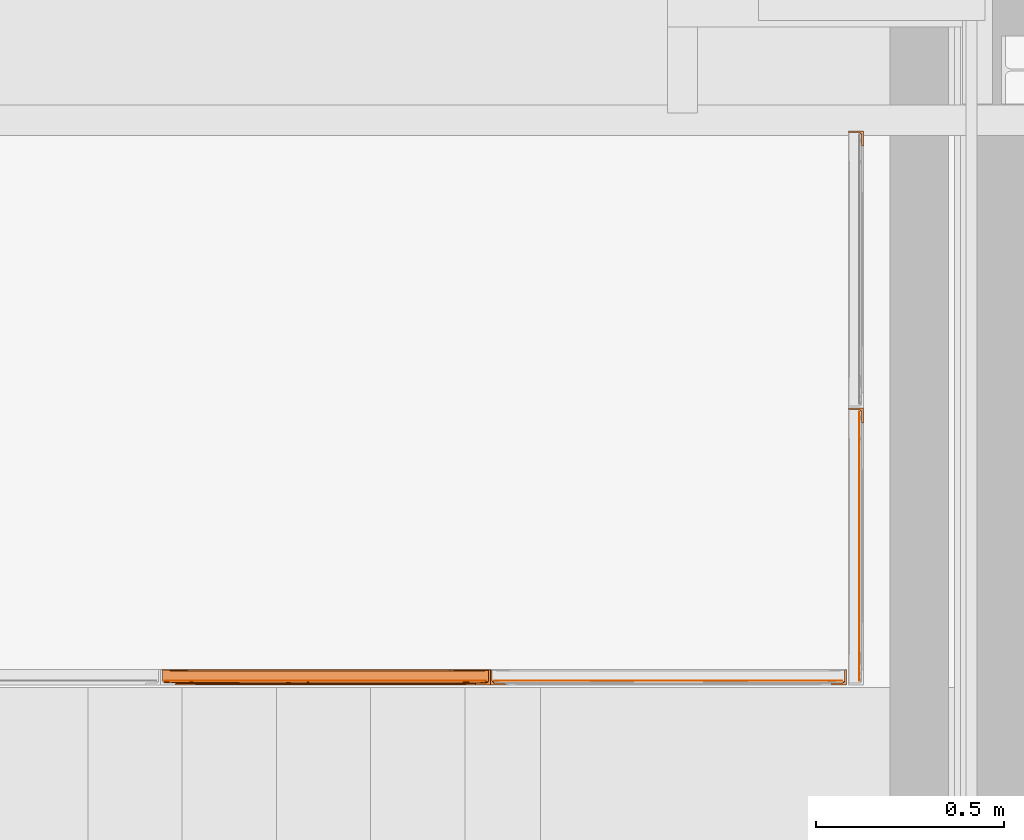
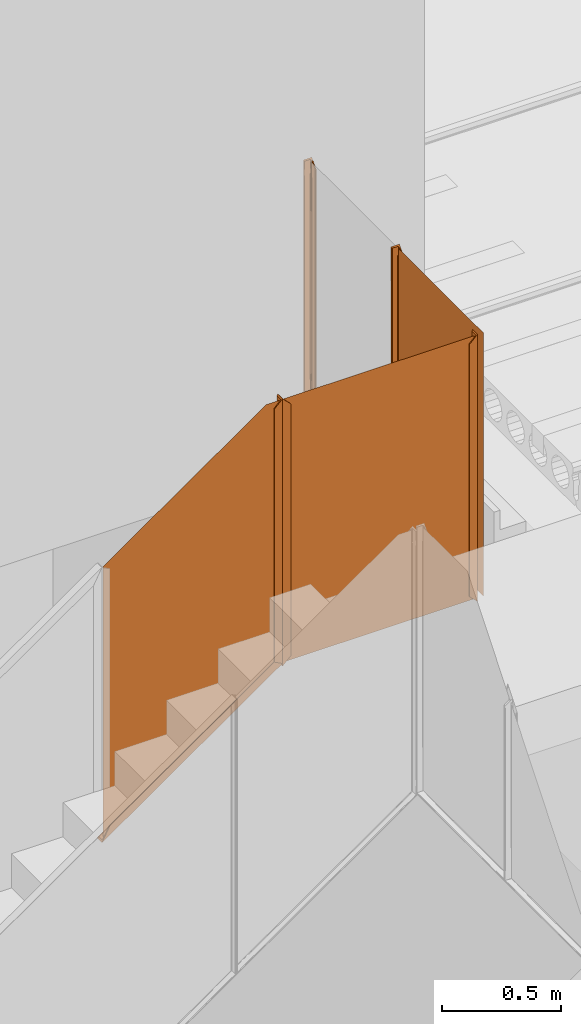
# One storey, part 226 of 230: 9 proxies.
"""IFC4X3_ADD2 building model written with IfcOpenShell, lengths in millimetres."""

from ifc_helpers import new_model, si_unit, direction, frame, origin_with_axes, place, context, subcontext, project, spatial, triangles, polygons, source, transform, mapped, material, type_object, type_shapes, element, save


model = new_model("IFC4X3_ADD2")

# Units and contexts
model_context = context("Model", 3, precision=1e-05, world=origin_with_axes(), true_north=direction((0.0, 1.0)))
body_context = subcontext(model_context, "Body", "Model", "MODEL_VIEW")
ifc_project = project(units=[si_unit("LENGTHUNIT", "METRE", prefix="MILLI"), si_unit("AREAUNIT", "SQUARE_METRE"), si_unit("VOLUMEUNIT", "CUBIC_METRE"), si_unit("PLANEANGLEUNIT", "RADIAN"), si_unit("TIMEUNIT", "SECOND"), si_unit("MASSUNIT", "GRAM")], contexts=[model_context])

# Site, building, storey
site_placement = place(None, origin_with_axes())
site = spatial("IfcSite", under=ifc_project, at=site_placement, Name="Site", CompositionType="ELEMENT")
building_placement = place(site_placement, origin_with_axes())
building = spatial("IfcBuilding", under=site, at=building_placement, Name="IFC Building Story")
storey_placement = place(building_placement, origin_with_axes())
storey = spatial("IfcBuildingStorey", under=building, at=storey_placement, Name="ETAGE 00 (0)", Elevation=0.0)

# Proxies
ifc_material = material(Name="<Unnamed>")
building_element_proxy_type_1 = type_object("IfcBuildingElementProxyType", Name="107", PredefinedType="NOTDEFINED")
shared_shape_1 = source(origin_with_axes(), body_context, "Body", "Tessellation", [
    polygons([(40.0, 1.99999984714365, 76.8392850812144), (238.834416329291, 1.99999983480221, 216.044519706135), (835.000000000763, 1.99999979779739, 633.42382195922), (835.00000000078, 0.0, 633.423821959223), (40.0, 0.0, 76.8392850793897), (835.2735811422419, 3.22247227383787, 633.281404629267), (836.144522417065, 4.31644054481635, 632.8280212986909), (837.594129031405, 4.96799257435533, 632.073403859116), (837.9999999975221, 5.000000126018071, 631.862120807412), (863.999999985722, 5.00000026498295, 618.32737750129), (865.476156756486, 5.20800222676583, 617.558938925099), (866.916329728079, 5.81847381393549, 616.809232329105), (868.0906761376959, 6.69047118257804, 616.1979062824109), (869.0198422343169, 7.78356872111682, 615.71421302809), (869.929010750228, 10.0931249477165, 615.240929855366), (870.0, 11.0000000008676, 615.203975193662), (870.0, 37.0000000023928, 615.203975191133), (870.275193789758, 38.22879501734, 615.060718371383), (871.1456099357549, 39.3198869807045, 614.607608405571), (872.5927963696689, 39.9680121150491, 613.8542508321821), (872.9999999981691, 39.9999277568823, 613.642274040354), (875.000000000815, 39.9998921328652, 612.601139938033), (875.000000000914, 0.0, 612.601139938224), (764.125000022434, 39.9999416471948, 537.41723533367), (219.749999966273, 39.9999863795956, 156.292041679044), (110.874999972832, 39.9999953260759, 80.0670029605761), (2.00000000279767, 40.0000042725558, 3.84196425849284), (0.0, 39.9999689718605, 0.0), (5.00000000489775, 37.000000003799, 9.60491063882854), (221.334416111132, 37.000000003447, 161.06377771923), (761.874999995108, 11.0000000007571, 539.504092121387), (653.7499999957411, 11.0000000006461, 463.804209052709), (437.499999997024, 11.0000000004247, 312.404442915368), (329.374999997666, 11.0000000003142, 236.704559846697), (221.249999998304, 11.0000000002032, 161.004676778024), (113.124999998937, 11.0000000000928, 85.30479370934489), (4.99999999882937, 10.9999999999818, 9.60491064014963), (330.44567219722, 5.00000001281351, 244.77894062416), (330.318635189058, 5.36637168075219, 242.274618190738), (436.916379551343, 7.91459996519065, 315.705416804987), (755.979045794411, 5.0004378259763, 542.7010059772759), (651.293550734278, 7.939310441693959, 465.766807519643), (543.983748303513, 7.89620670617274, 390.69067198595), (329.974374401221, 7.35423408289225, 240.293586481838), (758.9763225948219, 7.972879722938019, 541.067766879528), (8.11437111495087, 5.698387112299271, 15.5875618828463), (7.4096188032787, 6.20008116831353, 14.2337452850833), (115.182462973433, 6.1839257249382, 89.447995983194), (222.304733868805, 6.86417887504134, 165.017634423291), (223.685554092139, 5.303205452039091, 167.728228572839), (9.39132913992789, 5.389334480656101, 18.0405754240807), (224.418832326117, 4.99999996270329, 170.548148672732), (11.0000000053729, 4.99999986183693, 21.1308034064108), (114.072116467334, 8.74509924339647, 87.2215561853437), (220.642486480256, 8.73718577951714, 161.789852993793), (5.71101860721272, 7.93701571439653, 10.9707646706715), (5.1427823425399, 9.51502874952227, 9.87919296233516), (6.53852552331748, 6.82018884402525, 12.5603906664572), (737.8749999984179, 5.00000014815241, 561.763898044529), (237.24999999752, 4.999999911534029, 211.272784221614), (137.124999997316, 4.999999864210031, 141.174561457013), (36.9999999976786, 4.99999981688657, 71.0763386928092), (236.809564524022, 3.46866505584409, 212.853900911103), (38.7936802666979, 4.38601799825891, 74.5219664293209), (38.1842469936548, 4.76103466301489, 73.3512560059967), (138.410691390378, 3.44768992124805, 143.989830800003), (39.9058911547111, 2.84178969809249, 76.6585036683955), (39.1420296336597, 4.17166012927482, 75.1911393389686), (39.5700699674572, 3.65410905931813, 76.01339716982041), (0.0, 0.0, 0.0), (219.307783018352, 38.4676351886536, 157.871622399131), (3.79476959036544, 39.38960526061, 7.28968455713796), (3.18803850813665, 39.7621532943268, 6.12416499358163), (112.160263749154, 38.4464864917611, 82.88191361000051), (4.90527484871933, 37.8473879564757, 9.42294531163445), (4.14172131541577, 39.176568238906, 7.95617262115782), (4.56895889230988, 38.6605383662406, 8.776888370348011)], [[[2, 3, 4]], [[4, 5, 2]], [[5, 1, 2]], [[21, 22, 23]], [[23, 16, 17]], [[23, 17, 18]], [[23, 18, 19]], [[23, 19, 20]], [[23, 20, 21]], [[23, 15, 16]], [[23, 14, 15]], [[23, 13, 14]], [[23, 12, 13]], [[23, 11, 12]], [[23, 10, 11]], [[23, 4, 9]], [[23, 9, 10]], [[4, 3, 6]], [[4, 6, 7]], [[4, 7, 8]], [[4, 8, 9]], [[26, 27, 28]], [[28, 25, 26]], [[28, 24, 25]], [[28, 22, 24]], [[22, 21, 24]], [[34, 35, 30]], [[30, 33, 34]], [[30, 32, 33]], [[30, 17, 32]], [[17, 31, 32]], [[17, 16, 31]], [[36, 37, 29]], [[29, 30, 35]], [[29, 35, 36]], [[38, 39, 40]], [[40, 38, 41]], [[43, 40, 41]], [[41, 42, 43]], [[39, 44, 40]], [[44, 34, 33]], [[10, 41, 45]], [[45, 11, 10]], [[45, 12, 11]], [[15, 14, 31]], [[13, 45, 31]], [[31, 14, 13]], [[46, 47, 48]], [[48, 49, 50]], [[50, 51, 48]], [[50, 49, 44]], [[52, 50, 39]], [[53, 51, 50]], [[54, 36, 35]], [[49, 35, 34]], [[49, 55, 35]], [[55, 49, 48]], [[36, 54, 56]], [[57, 37, 36]], [[47, 58, 54]], [[58, 56, 54]], [[45, 42, 32]], [[43, 40, 33]], [[33, 32, 43]], [[32, 42, 43]], [[42, 45, 41]], [[32, 31, 45]], [[54, 48, 47]], [[56, 57, 36]], [[48, 54, 55]], [[34, 44, 49]], [[35, 55, 54]], [[50, 52, 53]], [[39, 38, 52]], [[44, 39, 50]], [[48, 51, 46]], [[31, 16, 15]], [[45, 13, 12]], [[33, 40, 44]], [[41, 10, 9]], [[41, 9, 59]], [[59, 60, 38]], [[59, 38, 41]], [[60, 52, 38]], [[61, 62, 53]], [[61, 53, 52]], [[52, 60, 61]], [[8, 7, 59]], [[7, 6, 59]], [[59, 9, 8]], [[59, 6, 3]], [[3, 2, 60, 59]], [[2, 63, 60]], [[64, 65, 61]], [[65, 62, 61]], [[66, 63, 2, 1]], [[1, 67, 66]], [[68, 64, 66]], [[66, 69, 68]], [[66, 67, 69]], [[61, 66, 64]], [[61, 60, 63, 66]], [[70, 5, 4, 23]], [[28, 70, 23, 22]], [[20, 19, 24]], [[19, 18, 24]], [[24, 21, 20]], [[24, 18, 17]], [[17, 30, 25, 24]], [[30, 71, 25]], [[72, 73, 26]], [[73, 27, 26]], [[74, 71, 30, 29]], [[29, 75, 74]], [[76, 72, 74]], [[74, 77, 76]], [[74, 75, 77]], [[26, 74, 72]], [[26, 25, 71, 74]], [[64, 68, 69]], [[64, 69, 67]], [[64, 67, 1]], [[64, 1, 5]], [[64, 5, 62]], [[62, 65, 64]], [[5, 70, 53]], [[5, 53, 62]], [[70, 51, 53]], [[70, 46, 51]], [[70, 47, 46]], [[70, 58, 47]], [[70, 56, 58]], [[70, 57, 56]], [[70, 37, 57]], [[70, 27, 72]], [[70, 72, 76]], [[70, 76, 77]], [[70, 77, 75]], [[70, 75, 29]], [[70, 29, 37]], [[27, 73, 72]], [[70, 28, 27]]]),
])
type_shapes(building_element_proxy_type_1, [shared_shape_1])
proxy_1_placement = place(storey_placement, frame((37614.1894781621, 2977.49996376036, 3391.54898137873), z_axis=(0.0, 0.0, 1.0), x_axis=(1.0, 0.0, 0.0)))
element("IfcBuildingElementProxy", 1, at=proxy_1_placement, inside=storey, type_object=building_element_proxy_type_1, material=ifc_material, Name="54", ObjectType="54", context=body_context, shape_type="MappedRepresentation", body=[
    mapped(shared_shape_1, transform((0.0, 0.0, 0.0))),
])
building_element_proxy_type_2 = type_object("IfcBuildingElementProxyType", Name="123", PredefinedType="NOTDEFINED")
shared_shape_2 = source(origin_with_axes(), body_context, "Body", "Tessellation", [
    triangles([(39479.190234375, 4407.50015716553, 4029.99994354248), (39477.1903564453, 4407.50015716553, 4029.99994354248), (39477.1903564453, 4407.50015716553, 5320.000273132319), (39479.190234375, 4407.50015716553, 5320.000273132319), (39474.1905395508, 4410.49997406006, 5323.000090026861), (39476.1299560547, 4407.680960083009, 5320.18107604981), (39475.1114135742, 4408.33615264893, 5320.83568725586), (39474.1905395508, 4436.50013122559, 5349.00024719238), (39479.190234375, 4447.500041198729, 5360.00015716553), (39473.8742797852, 4438.32850799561, 5350.828623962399), (39473.0185180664, 4440.03247375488, 5352.532008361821), (39471.0139892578, 4441.82480621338, 5354.32492218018), (39468.1909057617, 4442.50005569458, 5354.99988098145), (39439.1880249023, 4447.500041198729, 5360.00015716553), (39442.1878417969, 4442.50005569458, 5354.99988098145), (39441.1274414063, 4442.68114929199, 5355.18068389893), (39440.1088989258, 4443.33605117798, 5355.83587646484), (39439.1880249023, 4445.50016326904, 5358.00027923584), (39439.1880249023, 4447.500041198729, 3990.00005950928), (39479.190234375, 4447.500041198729, 3990.00005950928), (39442.1878417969, 4442.50005569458, 3995.00004501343), (39468.1909057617, 4442.50005569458, 4334.99993133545), (39468.1909057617, 4442.50005569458, 3995.00004501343), (39468.1909057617, 4442.50005569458, 4675.0001083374), (39468.1909057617, 4442.50005569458, 5015.00028533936), (39471.204675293, 4439.5208770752, 5012.9492477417), (39470.9628295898, 4441.86114120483, 3995.63895950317), (39468.4606567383, 4442.49482345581, 3995.0052772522), (39472.6185424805, 4440.56238327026, 3996.93771743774), (39471.19072265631, 4439.51506347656, 4337.04864349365), (39474.1905395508, 4436.50013122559, 4000.99996948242), (39473.8510253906, 4438.42152557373, 3999.07857513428), (39471.2930419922, 4439.4115814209, 4674.99981765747), (39474.1905395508, 4436.49984054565, 5010.87495574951), (39474.1905395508, 4410.49997406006, 4189.00012207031), (39474.1905395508, 4410.49997406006, 4027.00012664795), (39474.1905395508, 4410.49997406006, 5161.000094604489), (39475.9067138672, 4407.76845474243, 4029.73164596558), (39475.0369995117, 4408.40010223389, 4029.09999847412), (39439.1880249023, 4445.50016326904, 5187.25023651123), (39439.1880249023, 4445.50016326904, 4162.74998016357), (39440.9088500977, 4442.76864395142, 3994.73145675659), (39440.0391357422, 4443.400291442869, 3994.09980926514), (39439.1880249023, 4445.50016326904, 3991.99993743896)], [[1, 2, 3], [3, 4, 1], [5, 4, 3], [6, 7, 3], [5, 3, 7], [4, 8, 9], [8, 4, 5], [8, 10, 9], [9, 10, 11], [11, 12, 9], [13, 14, 9], [12, 13, 9], [15, 16, 17], [18, 14, 15], [18, 15, 17], [15, 14, 13], [14, 19, 9], [20, 9, 19], [21, 22, 23], [22, 21, 24], [24, 15, 25], [15, 24, 21], [13, 25, 15], [13, 26, 25], [12, 11, 26], [26, 13, 12], [22, 27, 28], [22, 28, 23], [22, 29, 27], [30, 31, 32], [31, 30, 33], [33, 34, 31], [30, 32, 29], [11, 10, 26], [8, 34, 26], [26, 10, 8], [26, 33, 24], [33, 26, 34], [24, 25, 26], [29, 22, 30], [30, 22, 24], [24, 33, 30], [31, 35, 36], [35, 31, 34], [34, 8, 37], [5, 37, 8], [34, 37, 35], [7, 6, 37], [37, 5, 7], [37, 6, 3], [37, 3, 35], [2, 35, 3], [35, 2, 38], [35, 39, 36], [35, 38, 39], [20, 1, 4], [4, 9, 20], [17, 16, 40], [40, 18, 17], [40, 16, 15], [40, 15, 41], [21, 41, 15], [41, 21, 42], [41, 43, 44], [41, 42, 43], [14, 18, 40], [14, 40, 41], [41, 44, 19], [41, 19, 14], [1, 31, 36], [31, 1, 20], [32, 31, 20], [29, 32, 20], [2, 1, 36], [2, 39, 38], [39, 2, 36], [44, 43, 21], [19, 44, 21], [42, 21, 43], [27, 29, 20], [28, 20, 23], [21, 23, 19], [27, 20, 28], [23, 20, 19]]),
])
type_shapes(building_element_proxy_type_2, [shared_shape_2])
proxy_2_placement = place(storey_placement, origin_with_axes())
element("IfcBuildingElementProxy", 2, at=proxy_2_placement, inside=storey, type_object=building_element_proxy_type_2, material=ifc_material, Name="64", ObjectType="64", context=body_context, shape_type="MappedRepresentation", body=[
    mapped(shared_shape_2, transform((0.0, 0.0, 0.0))),
])
building_element_proxy_type_3 = type_object("IfcBuildingElementProxyType", Name="125", PredefinedType="NOTDEFINED")
shared_shape_3 = source(origin_with_axes(), body_context, "Body", "Tessellation", [
    triangles([(39479.190234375, 3672.49996261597, 4029.99994354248), (39477.1903564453, 3672.49996261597, 4029.99994354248), (39477.1903564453, 3672.49996261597, 5320.000273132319), (39479.190234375, 3672.49996261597, 5320.000273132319), (39474.1905395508, 3675.50007019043, 5323.000090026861), (39476.1299560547, 3672.68105621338, 5320.18107604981), (39475.1114135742, 3673.33595809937, 5320.83568725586), (39474.1905395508, 3701.49993667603, 5349.00024719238), (39479.190234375, 3712.5001373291, 5360.00015716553), (39473.8742797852, 3703.32831344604, 5350.828623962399), (39473.0185180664, 3705.03227920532, 5352.532008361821), (39471.0139892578, 3706.82461166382, 5354.32492218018), (39468.1909057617, 3707.49986114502, 5354.99988098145), (39439.1880249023, 3712.5001373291, 5360.00015716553), (39442.1878417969, 3707.49986114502, 5354.99988098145), (39441.1274414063, 3707.68095474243, 5355.18068389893), (39440.1088989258, 3708.33585662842, 5355.83587646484), (39439.1880249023, 3710.49996871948, 5358.00027923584), (39439.1880249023, 3712.5001373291, 3990.00005950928), (39479.190234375, 3712.5001373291, 3990.00005950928), (39442.1878417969, 3707.49986114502, 3995.00004501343), (39468.1909057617, 3707.49986114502, 4334.99993133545), (39468.1909057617, 3707.49986114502, 3995.00004501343), (39468.1909057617, 3707.49986114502, 4675.0001083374), (39468.1909057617, 3707.49986114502, 5015.00028533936), (39471.204675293, 3704.52068252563, 5012.9492477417), (39470.9628295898, 3706.86123733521, 3995.63895950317), (39468.4606567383, 3707.49491958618, 3995.0052772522), (39472.6185424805, 3705.56247940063, 3996.93771743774), (39471.19072265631, 3704.51515960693, 4337.04864349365), (39474.1905395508, 3701.49993667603, 4000.99996948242), (39473.8510253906, 3703.4216217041, 3999.07857513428), (39471.2930419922, 3704.41167755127, 4674.99981765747), (39474.1905395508, 3701.49964599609, 5010.87495574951), (39474.1905395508, 3675.50007019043, 4189.00012207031), (39474.1905395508, 3675.50007019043, 4027.00012664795), (39474.1905395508, 3675.50007019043, 5161.000094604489), (39475.9067138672, 3672.7685508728, 4029.73164596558), (39475.0369995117, 3673.40019836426, 4029.09999847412), (39439.1880249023, 3710.49996871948, 5187.25023651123), (39439.1880249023, 3710.49996871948, 4162.74998016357), (39440.9088500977, 3707.76844940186, 3994.73145675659), (39440.0391357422, 3708.40009689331, 3994.09980926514), (39439.1880249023, 3710.49996871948, 3991.99993743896)], [[1, 2, 3], [3, 4, 1], [5, 4, 3], [6, 7, 3], [5, 3, 7], [4, 8, 9], [8, 4, 5], [8, 10, 9], [9, 10, 11], [11, 12, 9], [13, 14, 9], [12, 13, 9], [15, 16, 17], [18, 14, 15], [18, 15, 17], [15, 14, 13], [14, 19, 9], [20, 9, 19], [21, 22, 23], [22, 21, 24], [24, 15, 25], [15, 24, 21], [13, 25, 15], [13, 26, 25], [12, 11, 26], [26, 13, 12], [22, 27, 28], [22, 28, 23], [22, 29, 27], [30, 31, 32], [31, 30, 33], [33, 34, 31], [30, 32, 29], [11, 10, 26], [8, 34, 26], [26, 10, 8], [26, 33, 24], [33, 26, 34], [24, 25, 26], [29, 22, 30], [30, 22, 24], [24, 33, 30], [31, 35, 36], [35, 31, 34], [34, 8, 37], [5, 37, 8], [34, 37, 35], [7, 6, 37], [37, 5, 7], [37, 6, 3], [37, 3, 35], [2, 35, 3], [35, 2, 38], [35, 39, 36], [35, 38, 39], [20, 1, 4], [4, 9, 20], [17, 16, 40], [40, 18, 17], [40, 16, 15], [40, 15, 41], [21, 41, 15], [41, 21, 42], [41, 43, 44], [41, 42, 43], [14, 18, 40], [14, 40, 41], [41, 44, 19], [41, 19, 14], [1, 31, 36], [31, 1, 20], [32, 31, 20], [29, 32, 20], [2, 1, 36], [2, 39, 38], [39, 2, 36], [44, 43, 21], [19, 44, 21], [42, 21, 43], [27, 29, 20], [28, 20, 23], [21, 23, 19], [27, 20, 28], [23, 20, 19]]),
])
type_shapes(building_element_proxy_type_3, [shared_shape_3])
proxy_3_placement = place(storey_placement, origin_with_axes())
element("IfcBuildingElementProxy", 3, at=proxy_3_placement, inside=storey, type_object=building_element_proxy_type_3, material=ifc_material, Name="66", ObjectType="66", context=body_context, shape_type="MappedRepresentation", body=[
    mapped(shared_shape_3, transform((0.0, 0.0, 0.0))),
])
building_element_proxy_type_4 = type_object("IfcBuildingElementProxyType", Name="127", PredefinedType="NOTDEFINED")
shared_shape_4 = source(origin_with_axes(), body_context, "Body", "Tessellation", [
    polygons([(0.0, 712.999999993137, 0.0), (0.0, 0.0, 0.0), (0.0, 0.0, 1347.99999999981), (0.0, 712.999999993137, 1347.9999999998)], [[[1, 2, 3, 4]]]),
])
type_shapes(building_element_proxy_type_4, [shared_shape_4])
proxy_4_placement = place(storey_placement, frame((39468.1894781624, 2988.49996377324, 4001.00000000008), z_axis=(0.0, 0.0, 1.0), x_axis=(1.0, 0.0, 0.0)))
element("IfcBuildingElementProxy", 4, at=proxy_4_placement, inside=storey, type_object=building_element_proxy_type_4, material=ifc_material, Name="67", ObjectType="67", context=body_context, shape_type="MappedRepresentation", body=[
    mapped(shared_shape_4, transform((0.0, 0.0, 0.0))),
])
building_element_proxy_type_5 = type_object("IfcBuildingElementProxyType", Name="133", PredefinedType="NOTDEFINED")
shared_shape_5 = source(origin_with_axes(), body_context, "Body", "Tessellation", [
    triangles([(38529.1900817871, 2977.49994277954, 5320.000273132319), (38529.1900817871, 2979.50011138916, 5320.000273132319), (38529.1900817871, 2977.49994277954, 4029.99994354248), (38529.1900817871, 2979.50011138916, 4029.99994354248), (38500.1895263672, 2982.49992828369, 5349.00024719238), (38526.1902648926, 2982.49992828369, 5323.000090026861), (38489.1901977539, 2977.49994277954, 5360.00015716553), (38498.361730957, 2982.81473464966, 5350.828623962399), (38496.6571838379, 2983.67311248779, 5352.532008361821), (38528.352923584, 2981.58021697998, 5320.83568725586), (38529.00869750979, 2980.56167449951, 5320.18107604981), (38491.1900756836, 3017.50011749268, 5358.00027923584), (38493.352734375, 3016.58011550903, 5355.83587646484), (38494.1898925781, 3014.50000991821, 5354.99988098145), (38489.1901977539, 3017.50040817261, 5360.00015716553), (38494.0085083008, 3015.56157302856, 5355.18068389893), (38494.8642700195, 2985.67618789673, 5354.32492218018), (38494.1898925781, 2988.36846542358, 5354.998718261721), (38489.1901977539, 3017.49982681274, 3990.00005950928), (38489.1901977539, 2977.49994277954, 3990.00005950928), (38494.1898925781, 2988.49985275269, 5015.00028533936), (38494.1898925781, 2988.49985275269, 4675.0001083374), (38494.1898925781, 3014.50000991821, 3995.00004501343), (38494.1898925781, 2988.49985275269, 4334.99993133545), (38494.1898925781, 2988.49985275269, 3995.00004501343), (38494.8293884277, 2985.72473144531, 3995.63925018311), (38496.1269836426, 2984.06959991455, 3996.93829879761), (38494.194543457, 2988.2289390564, 3995.0052772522), (38497.1664550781, 2985.48811798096, 4337.04864349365), (38497.1780822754, 2985.49451293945, 5012.9492477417), (38497.2780761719, 2985.39510040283, 4675.0001083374), (38500.1895263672, 2982.49992828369, 4339.12497024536), (38500.1895263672, 2982.49992828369, 4000.99996948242), (38498.2687133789, 2982.83827972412, 3999.07857513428), (38526.1902648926, 2982.49992828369, 5161.000094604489), (38526.1902648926, 2982.49992828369, 4189.00012207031), (38526.1902648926, 2982.49992828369, 4027.00012664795), (38528.2901367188, 2981.65259628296, 4029.09999847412), (38528.9203308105, 2980.78288192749, 4029.73164596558), (38493.2899475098, 3016.65249481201, 3994.09980926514), (38493.9201416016, 3015.78278045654, 3994.73145675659), (38491.1900756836, 3017.49982681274, 4162.74998016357), (38491.3179748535, 3017.4966293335, 3992.12870864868), (38491.1900756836, 3017.50011749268, 5187.25023651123)], [[1, 2, 3], [4, 3, 2], [1, 5, 6], [5, 1, 7], [8, 5, 7], [7, 9, 8], [1, 6, 2], [10, 11, 2], [6, 10, 2], [12, 13, 14], [14, 15, 12], [14, 13, 16], [17, 9, 7], [14, 18, 15], [17, 7, 18], [18, 7, 15], [19, 15, 7], [7, 20, 19], [18, 14, 21], [21, 14, 22], [22, 23, 24], [23, 22, 14], [25, 24, 23], [26, 27, 24], [24, 28, 26], [27, 29, 24], [30, 17, 18], [18, 21, 30], [30, 9, 17], [30, 5, 8], [5, 30, 31], [31, 32, 5], [30, 8, 9], [33, 32, 29], [29, 34, 33], [29, 31, 22], [31, 29, 32], [22, 24, 29], [29, 27, 34], [24, 25, 28], [30, 21, 22], [22, 31, 30], [5, 35, 6], [35, 5, 32], [32, 33, 36], [37, 36, 33], [32, 36, 35], [38, 39, 36], [36, 37, 38], [36, 39, 4], [36, 4, 2], [2, 35, 36], [35, 2, 11], [35, 10, 6], [35, 11, 10], [7, 1, 20], [3, 20, 1], [40, 41, 42], [42, 43, 40], [42, 41, 23], [42, 23, 14], [14, 44, 42], [44, 14, 16], [44, 13, 12], [44, 16, 13], [19, 43, 42], [19, 42, 44], [44, 12, 15], [44, 15, 19], [3, 4, 37], [38, 37, 4], [38, 4, 39], [3, 33, 20], [33, 3, 37], [34, 27, 20], [33, 34, 20], [27, 26, 20], [25, 23, 19], [25, 19, 20], [26, 28, 20], [40, 43, 23], [19, 23, 43], [41, 40, 23], [25, 20, 28]]),
])
type_shapes(building_element_proxy_type_5, [shared_shape_5])
proxy_5_placement = place(storey_placement, origin_with_axes())
element("IfcBuildingElementProxy", 5, at=proxy_5_placement, inside=storey, type_object=building_element_proxy_type_5, material=ifc_material, Name="71", ObjectType="71", context=body_context, shape_type="MappedRepresentation", body=[
    mapped(shared_shape_5, transform((0.0, 0.0, 0.0))),
])
building_element_proxy_type_6 = type_object("IfcBuildingElementProxyType", Name="135", PredefinedType="NOTDEFINED")
shared_shape_6 = source(origin_with_axes(), body_context, "Body", "Tessellation", [
    polygons([(0.0, 0.0, 0.0), (922.999999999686, 0.0, 0.0), (922.999999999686, 0.0, 1347.99999999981), (0.0, 0.0, 1347.9999999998)], [[[1, 2, 3, 4]]]),
])
type_shapes(building_element_proxy_type_6, [shared_shape_6])
proxy_6_placement = place(storey_placement, frame((38500.1894781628, 2988.49996376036, 4001.00000000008), z_axis=(0.0, 0.0, 1.0), x_axis=(1.0, 0.0, 0.0)))
element("IfcBuildingElementProxy", 6, at=proxy_6_placement, inside=storey, type_object=building_element_proxy_type_6, material=ifc_material, Name="73", ObjectType="73", context=body_context, shape_type="MappedRepresentation", body=[
    mapped(shared_shape_6, transform((0.0, 0.0, 0.0))),
])
building_element_proxy_type_7 = type_object("IfcBuildingElementProxyType", Name="137", PredefinedType="NOTDEFINED")
shared_shape_7 = source(origin_with_axes(), body_context, "Body", "Tessellation", [
    polygons([(0.0, 2.00000000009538, 40.0), (0.0, 1.9999999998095, 1330.0), (0.0, 0.0, 1330.0), (0.0, 0.0, 40.0), (0.283720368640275, 3.41674010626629, 1330.2837203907), (0.8515726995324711, 4.2239086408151, 1330.85157272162), (2.82848421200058, 4.995592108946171, 1332.82848423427), (3.00000000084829, 4.99999999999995, 1333.00000002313), (28.9999999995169, 5.000000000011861, 1359.00000002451), (31.1864120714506, 5.319113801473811, 1361.18641209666), (33.3114997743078, 6.558306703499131, 1363.3114997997), (34.7034929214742, 8.88070679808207, 1364.70349294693), (34.999999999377, 10.9999999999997, 1365.00000002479), (34.9999999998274, 36.9999999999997, 1365.00000002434), (35.2837202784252, 38.4167396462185, 1365.28372030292), (35.85157240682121, 39.2239079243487, 1365.85157243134), (37.8284836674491, 39.9955912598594, 1367.82848369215), (38.000000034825, 40.0000228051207, 1368.00000005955), (40.0, 40.0000152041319, 1370.0), (40.0, 0.0, 1370.0), (34.7034929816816, 8.8807071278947, 5.296507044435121), (35.0000000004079, 11.0, 5.00000002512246), (35.0000000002, 11.0, 685.000000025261), (32.0057781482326, 7.98717385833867, 685.0000000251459), (33.3114998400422, 6.55830690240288, 6.68850018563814), (29.0000000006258, 4.99999999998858, 11.0000000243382), (31.1864119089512, 5.31911379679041, 8.81358811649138), (3.00000000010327, 4.9999999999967, 1009.00000002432), (3.00000000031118, 4.9999999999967, 361.000000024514), (3.00000000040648, 4.9999999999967, 37.0000000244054), (0.283720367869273, 3.41674010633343, 39.7162796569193), (2.82848421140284, 4.99559210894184, 37.1715158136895), (0.8515726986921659, 4.22390864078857, 39.1484273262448), (38.0000000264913, 40.0000112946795, 1026.50000007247), (34.9999971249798, 37.000002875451, 5.00000002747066), (37.9999971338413, 39.9999911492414, 343.500000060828), (35.2837205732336, 38.4167410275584, 4.716279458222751), (37.8284833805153, 39.9955937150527, 2.17151665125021), (38.0000000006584, 39.9999767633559, 2.00000003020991), (35.8515732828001, 39.2239100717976, 4.14842674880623), (40.0, 39.9999741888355, 2.4162014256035e-08), (40.0, 0.0, 2.41560584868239e-08)], [[[1, 2, 3, 4]], [[18, 19, 20]], [[18, 20, 13]], [[13, 14, 15]], [[13, 15, 16]], [[13, 16, 17]], [[13, 17, 18]], [[20, 12, 13]], [[20, 11, 12]], [[20, 10, 11]], [[20, 9, 10]], [[20, 3, 8]], [[20, 8, 9]], [[3, 2, 5]], [[3, 5, 6]], [[3, 6, 7]], [[3, 7, 8]], [[21, 22, 23]], [[23, 24, 21]], [[25, 21, 24]], [[26, 27, 24]], [[9, 26, 24]], [[24, 27, 25]], [[12, 24, 23]], [[23, 13, 12]], [[12, 11, 24]], [[11, 10, 24]], [[24, 10, 9]], [[29, 30, 26]], [[26, 28, 29]], [[26, 9, 28]], [[9, 8, 28]], [[29, 28, 2, 1]], [[1, 31, 29]], [[32, 30, 29]], [[29, 33, 32]], [[29, 31, 33]], [[6, 5, 28]], [[28, 7, 6]], [[28, 8, 7]], [[28, 5, 2]], [[16, 15, 34]], [[34, 17, 16]], [[34, 18, 17]], [[34, 15, 14]], [[14, 35, 36, 34]], [[35, 37, 36]], [[38, 39, 36]], [[36, 40, 38]], [[36, 37, 40]], [[36, 39, 41]], [[41, 34, 36]], [[41, 19, 34]], [[19, 18, 34]], [[42, 4, 3, 20]], [[41, 42, 20, 19]], [[23, 22, 35]], [[35, 14, 23]], [[14, 13, 23]], [[30, 32, 33]], [[30, 33, 31]], [[30, 31, 1]], [[30, 1, 4]], [[4, 42, 26]], [[4, 26, 30]], [[42, 27, 26]], [[42, 25, 27]], [[42, 21, 25]], [[42, 22, 21]], [[42, 39, 38]], [[42, 38, 40]], [[42, 40, 37]], [[42, 37, 35]], [[42, 35, 22]], [[42, 41, 39]]]),
])
type_shapes(building_element_proxy_type_7, [shared_shape_7])
proxy_7_placement = place(storey_placement, frame((39394.1894781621, 2977.49996376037, 3990.0), z_axis=(0.0, 0.0, 1.0), x_axis=(1.0, 0.0, 0.0)))
element("IfcBuildingElementProxy", 7, at=proxy_7_placement, inside=storey, type_object=building_element_proxy_type_7, material=ifc_material, Name="74", ObjectType="74", context=body_context, shape_type="MappedRepresentation", body=[
    mapped(shared_shape_7, transform((0.0, 0.0, 0.0))),
])
building_element_proxy_type_8 = type_object("IfcBuildingElementProxyType", Name="167", PredefinedType="NOTDEFINED")
shared_shape_8 = source(origin_with_axes(), body_context, "Body", "Tessellation", [
    triangles([(38449.1903137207, 2977.49994277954, 5320.000273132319), (38449.1903137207, 2977.49994277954, 4024.97292480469), (38449.1903137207, 2979.50011138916, 4024.97292480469), (38449.1903137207, 2979.50011138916, 5320.000273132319), (38489.1901977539, 3017.49982681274, 5360.00015716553), (38487.1903198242, 3017.49982681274, 5358.00027923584), (38487.1903198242, 3017.49982681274, 5198.26584320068), (38487.1903198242, 3017.49982681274, 4175.63058929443), (38487.1903198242, 3017.49982681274, 4005.19128341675), (38489.1901977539, 3017.49982681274, 4004.15006790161), (38481.2348693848, 2985.50846557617, 4177.59674835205), (38481.220916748, 2985.49335021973, 4346.91025085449), (38484.1881774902, 2988.50130615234, 4176.94911346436), (38481.3046325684, 2985.57503128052, 4516.25165863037), (38481.4488098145, 2985.72037124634, 4685.685793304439), (38484.1905029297, 2988.49869003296, 4687.53742446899), (38482.4836303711, 2984.21581192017, 4007.64113388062), (38482.8208190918, 2984.50532913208, 4007.4655632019), (38483.802154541, 2986.21162033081, 4006.95425720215), (38484.1905029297, 2988.49985275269, 4006.75281600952), (38484.1905029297, 2988.49985275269, 4857.7334312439), (38484.1905029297, 2988.49985275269, 5027.929728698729), (38482.1510925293, 2985.10616455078, 5025.31360931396), (38484.1905029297, 2988.49985275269, 5198.12573547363), (38484.0974853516, 2988.22864837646, 5197.982720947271), (38481.6232177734, 2985.86716461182, 4855.22718887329), (38478.1885437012, 2982.49992828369, 5020.24531402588), (38478.1885437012, 2982.49992828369, 4851.85036010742), (38480.7976867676, 2982.89205551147, 5023.611387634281), (38478.1908691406, 2982.4990562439, 4009.87646255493), (38480.1395874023, 2982.77578353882, 4008.86053619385), (38481.52089843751, 2983.38911819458, 4008.1425567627), (38482.6975708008, 2984.01059188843, 5353.507530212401), (38480.8302429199, 2982.89641571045, 5351.63962097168), (38483.9184265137, 2986.21162033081, 5354.72838592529), (38484.1905029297, 2988.49985275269, 5354.99988098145), (38478.1885437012, 2982.49992828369, 5349.00024719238), (38452.1901306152, 2982.49992828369, 5323.000090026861), (38452.1901306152, 2982.49992828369, 5169.78851165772), (38452.1901306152, 2982.49992828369, 4187.179302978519), (38452.1901306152, 2982.49992828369, 4023.41110153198), (38449.5158752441, 2980.95118560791, 4024.80287704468), (38450.3274536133, 2981.92089385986, 4024.380519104), (38450.0716552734, 2981.87235031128, 5320.88161468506), (38449.4414611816, 2980.99304351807, 5320.25316467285), (38484.1905029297, 3014.50000991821, 4006.75281600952), (38484.1905029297, 3014.50000991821, 5354.99988098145), (38484.5160644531, 3015.95108413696, 4006.58305892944), (38485.3276428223, 3016.92050170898, 4006.1609916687), (38485.0718444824, 3016.87341156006, 5355.88354797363), (38484.4439758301, 3015.9964302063, 5355.25509796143), (38489.1901977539, 2977.49994277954, 4004.15006790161), (38489.1901977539, 2977.49994277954, 5360.00015716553)], [[1, 2, 3], [3, 4, 1], [5, 6, 7], [5, 7, 8], [8, 9, 10], [8, 10, 5], [11, 12, 13], [13, 12, 14], [14, 15, 16], [14, 16, 13], [13, 17, 18], [13, 19, 20], [13, 18, 19], [21, 22, 23], [22, 24, 25], [26, 15, 16], [27, 28, 26], [26, 29, 27], [28, 14, 15], [14, 28, 12], [12, 30, 11], [30, 12, 28], [11, 30, 31], [11, 32, 17], [11, 31, 32], [25, 33, 34], [34, 29, 25], [33, 25, 24], [24, 35, 33], [24, 36, 35], [29, 23, 25], [34, 37, 29], [27, 29, 37], [15, 26, 28], [26, 23, 29], [16, 21, 26], [25, 23, 22], [23, 26, 21], [17, 13, 11], [38, 39, 37], [27, 37, 39], [39, 28, 27], [40, 41, 30], [30, 28, 40], [40, 28, 39], [3, 40, 4], [39, 4, 40], [40, 3, 42], [40, 43, 41], [40, 42, 43], [44, 45, 39], [39, 38, 44], [39, 45, 4], [46, 8, 47], [7, 47, 8], [8, 46, 48], [8, 49, 9], [8, 48, 49], [50, 51, 7], [7, 6, 50], [7, 51, 47], [52, 2, 1], [1, 53, 52], [5, 10, 52], [52, 53, 5], [36, 24, 47], [47, 22, 21], [22, 47, 24], [13, 20, 46], [16, 46, 47], [46, 16, 13], [16, 47, 21], [52, 30, 2], [30, 52, 31], [32, 31, 52], [52, 17, 32], [3, 2, 41], [3, 43, 42], [43, 3, 41], [2, 30, 41], [9, 49, 46], [46, 10, 9], [46, 49, 48], [18, 17, 52], [19, 52, 20], [46, 20, 10], [18, 52, 19], [20, 52, 10], [47, 5, 6], [6, 50, 47], [51, 47, 50], [5, 36, 53], [36, 5, 47], [35, 33, 53], [36, 35, 53], [33, 34, 53], [37, 1, 53], [37, 53, 34], [38, 44, 4], [4, 1, 38], [4, 44, 45], [38, 1, 37]]),
])
type_shapes(building_element_proxy_type_8, [shared_shape_8])
proxy_8_placement = place(storey_placement, origin_with_axes())
element("IfcBuildingElementProxy", 8, at=proxy_8_placement, inside=storey, type_object=building_element_proxy_type_8, material=ifc_material, Name="89", ObjectType="89", context=body_context, shape_type="MappedRepresentation", body=[
    mapped(shared_shape_8, transform((0.0, 0.0, 0.0))),
])
building_element_proxy_type_9 = type_object("IfcBuildingElementProxyType", Name="171", PredefinedType="NOTDEFINED")
shared_shape_9 = source(origin_with_axes(), body_context, "Body", "Tessellation", [
    triangles([(0.0, 0.0, 0.0), (852.999999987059, 0.0, 597.196574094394), (853.000000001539, 0.0, 1936.32021521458), (791.67702338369, 0.0, 1936.32021521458), (0.0, 0.0, 1383.68079905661)], [[1, 2, 3], [1, 3, 4], [1, 4, 5]]),
])
type_shapes(building_element_proxy_type_9, [shared_shape_9])
proxy_9_placement = place(storey_placement, frame((37625.1894781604, 2988.49996376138, 3412.6797847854), z_axis=(0.0, 0.0, 1.0), x_axis=(1.0, 0.0, 0.0)))
element("IfcBuildingElementProxy", 9, at=proxy_9_placement, inside=storey, type_object=building_element_proxy_type_9, material=ifc_material, Name="91", ObjectType="91", context=body_context, shape_type="MappedRepresentation", body=[
    mapped(shared_shape_9, transform((0.0, 0.0, 0.0))),
])

save(model, "model.ifc")
